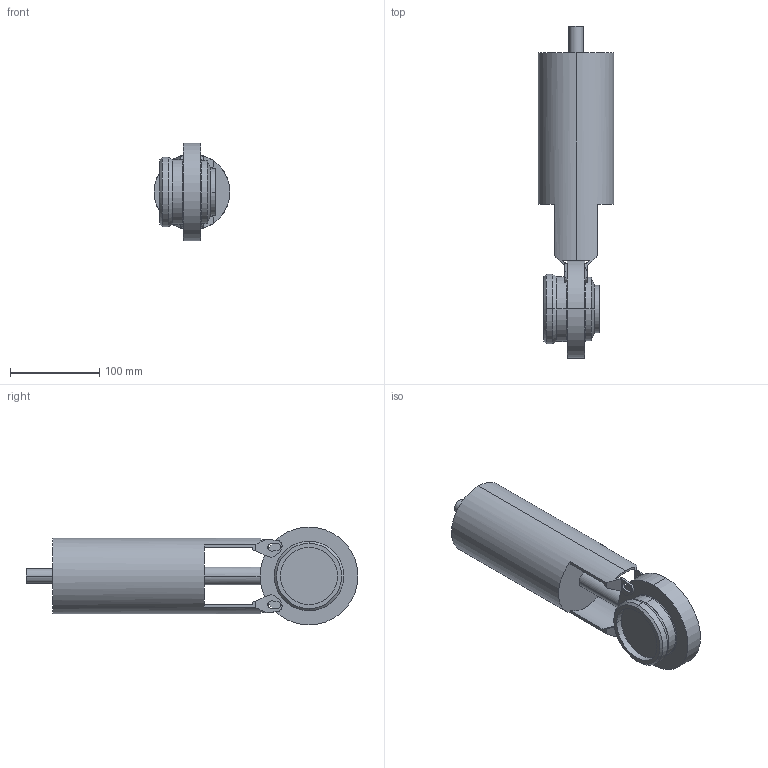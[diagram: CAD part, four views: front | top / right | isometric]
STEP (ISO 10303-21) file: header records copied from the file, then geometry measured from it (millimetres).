
FILE_DESCRIPTION(('Creo Elements/Direct Modeling STEP Export'),'2;1');
FILE_NAME('SV1-50-FZ-1S-2G.stp','2012-11-06T14:34:54',(''),(''),'Creo Elements/Direct Modeling STEP processor for AP214 (Solid Model)','Creo Elements/Direct Modeling 17.0D 15-Jul-2011 (C) Parametric Technology GmbH','');
FILE_SCHEMA(('AUTOMOTIVE_DESIGN { 1 0 10303 214 1 1 1 1 }'));
Length unit declared in the file: millimetre
Products named in the file (2): SV1-50-FZ-1S2G
Assembly tree (1 placements, depth 2):
  SV1-50-FZ-1S2G
    SV1-50-FZ-1S2G
Bounding box: 85 x 372.88 x 110 mm (x, y, z)
Volume: 1333925.7 mm3; surface area: 115309.3 mm2
Topology: 1 solids, 1 shells, 122 faces, 340 edges, 214 vertices
Faces by surface type: plane 73, cylinder 35, torus 8, cone 6
Entity records: 4207 total; most frequent: CARTESIAN_POINT 1158, ORIENTED_EDGE 680, DIRECTION 596, EDGE_CURVE 340, VERTEX_POINT 214, AXIS2_PLACEMENT_3D 203, VECTOR 190, LINE 190
